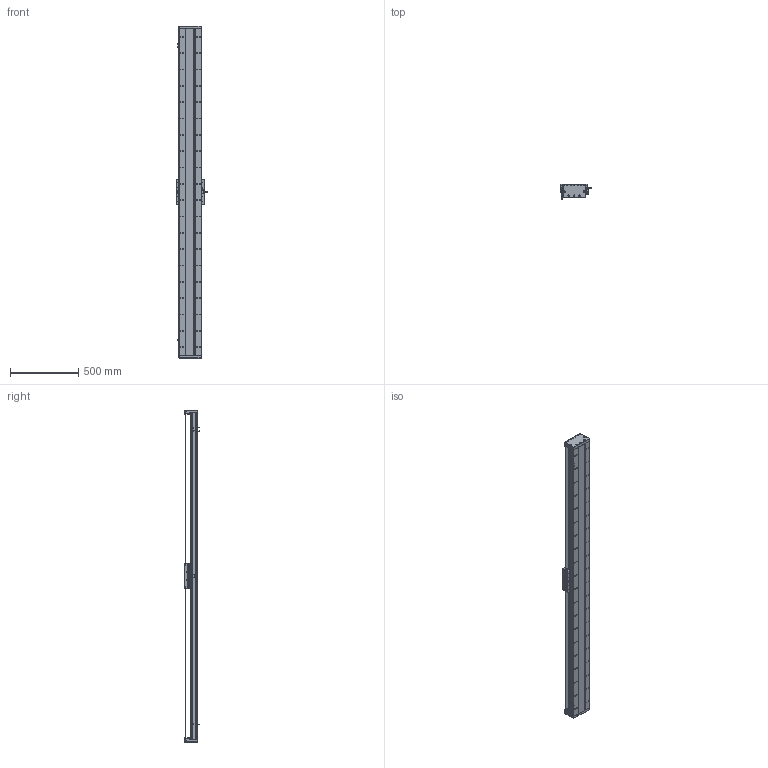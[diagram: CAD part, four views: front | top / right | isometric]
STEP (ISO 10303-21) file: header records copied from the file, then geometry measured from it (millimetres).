
FILE_DESCRIPTION (( 'STEP AP203' ), '1' );
FILE_NAME ('DA-C165-C2-T2160-C010-0.2 直线电机.STEP', '2023-05-11T07:45:58', ( '微软用户' ), ( '微软中国' ), 'SwSTEP 2.0', 'SolidWorks 2019', '' );
FILE_SCHEMA (( 'CONFIG_CONTROL_DESIGN' ));
Length unit declared in the file: millimetre
Products named in the file (18): 复件 DA165-GD-1860-002-00 钢带盖板^复件 CU165钢带组件_DA-C165-C2-T-C010-0.2-N 直线电机; 复件 DMA-010-0.2 读数头^DA-C165-C2-T-C010-0.2-N 直线电机; IU-CU165-L-00 菁釱_L2400; 葩璃 DA95-GT-T-00^IU-CU165-L 菁釱絳寢_T; 葩璃 PM-T45^DA-C165-C2-T-C010-0.2-N 眻盄萇儂; 复件 CKM02-W075-C1C2-TP-3.0 一体电机-C2^DA-C165-C2-T-C010-0.2-N 直线电机; 复件 DA165-GDLK-00 钢带拉块^复件 CU165钢带组件_DA-C165-C2-T-C010-0.2-N 直线电机; 复件 CU165钢带组件^DA-C165-C2-T-C010-0.2-N 直线电机; 复件 DA165-GDYK-00 钢带压块^复件 CU165钢带组件_DA-C165-C2-T-C010-0.2-N 直线电机; 复件 DA165-GYP-00 光电感应片^DA-C165-C2-T-C010-0.2-N 直线电机; 复件 六角薄螺母 M3^DA-C165-C2-T-C010-0.2-N 直线电机_GB_FASTENER_NUT_STNAB M3-C; 复件 DA95-HXJ-00 缓冲橡胶^DA-C165-C2-T-C010-0.2-N 直线电机; 复件 DA165-GD-DG-H-00 端盖^复件 CU165钢带组件_DA-C165-C2-T-C010-0.2-N 直线电机; IU-CU165-L 菁釱絳寢; 复件 XD-U-02L 磁栅尺^DA-C165-C2-T-C010-0.2-N 直线电机_T; DA-C165-C2-T2160-C010-0.2 眻盄萇儂; 珨极趙賑雄怢啣wf-C2; 葩璃 CKM01-W075-TRL^DA-C165-C2-T-C010-0.2-N 眻盄萇儂
Assembly tree (33 placements, depth 3):
  DA-C165-C2-T2160-C010-0.2 眻盄萇儂
    IU-CU165-L 菁釱絳寢
      IU-CU165-L-00 菁釱_L2400
      葩璃 DA95-GT-T-00^IU-CU165-L 菁釱絳寢_T  x4
    复件 XD-U-02L 磁栅尺^DA-C165-C2-T-C010-0.2-N 直线电机_T
    葩璃 PM-T45^DA-C165-C2-T-C010-0.2-N 眻盄萇儂  x3
    葩璃 CKM01-W075-TRL^DA-C165-C2-T-C010-0.2-N 眻盄萇儂
    复件 CU165钢带组件^DA-C165-C2-T-C010-0.2-N 直线电机
      复件 DA165-GD-DG-H-00 端盖^复件 CU165钢带组件_DA-C165-C2-T-C010-0.2-N 直线电机  x2
      复件 DA165-GDYK-00 钢带压块^复件 CU165钢带组件_DA-C165-C2-T-C010-0.2-N 直线电机  x2
      复件 DA165-GD-1860-002-00 钢带盖板^复件 CU165钢带组件_DA-C165-C2-T-C010-0.2-N 直线电机
      复件 DA165-GDLK-00 钢带拉块^复件 CU165钢带组件_DA-C165-C2-T-C010-0.2-N 直线电机  x2
    复件 DA95-HXJ-00 缓冲橡胶^DA-C165-C2-T-C010-0.2-N 直线电机  x4
    复件 DA165-GYP-00 光电感应片^DA-C165-C2-T-C010-0.2-N 直线电机
    复件 DMA-010-0.2 读数头^DA-C165-C2-T-C010-0.2-N 直线电机
    复件 CKM02-W075-C1C2-TP-3.0 一体电机-C2^DA-C165-C2-T-C010-0.2-N 直线电机
    复件 六角薄螺母 M3^DA-C165-C2-T-C010-0.2-N 直线电机_GB_FASTENER_NUT_STNAB M3-C  x6
    珨极趙賑雄怢啣wf-C2
Bounding box: 233 x 111.45 x 2440 mm (x, y, z)
Volume: 13721526 mm3; surface area: 4111877.1 mm2
Topology: 70 solids, 70 shells, 3787 faces, 11041 edges, 7043 vertices
Faces by surface type: cylinder 2213, plane 1094, cone 430, torus 46, sphere 4
Entity records: 126203 total; most frequent: CARTESIAN_POINT 33697, ORIENTED_EDGE 19254, DIRECTION 18639, EDGE_CURVE 9627, AXIS2_PLACEMENT_3D 7117, VERTEX_POINT 6279, EDGE_LOOP 4414, VECTOR 4405
